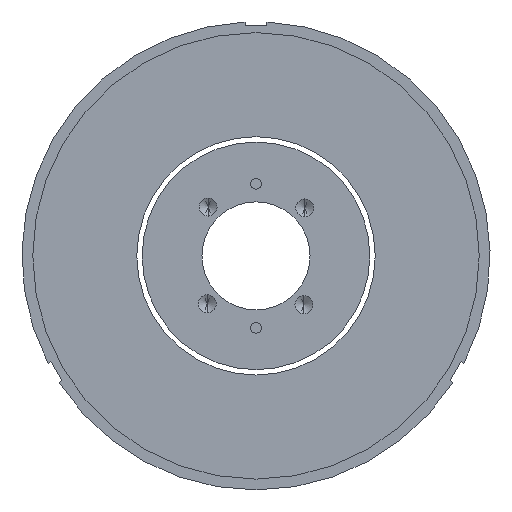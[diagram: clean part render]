
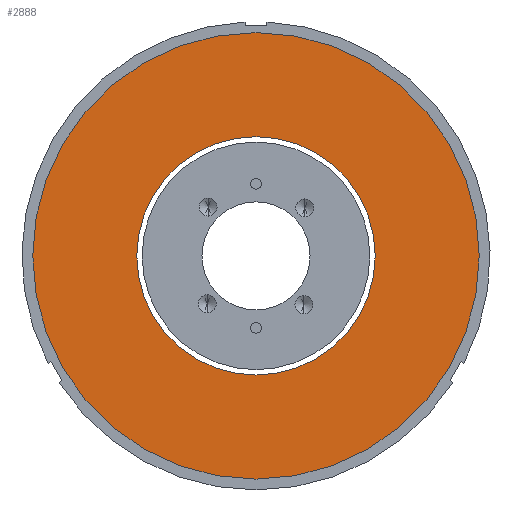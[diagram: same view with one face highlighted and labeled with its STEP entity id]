
A CAD part, front view. The second image highlights one B-rep face of the part: STEP entity #2888.
In plain terms, the highlighted planar face has unit normal (0, -1, 0).
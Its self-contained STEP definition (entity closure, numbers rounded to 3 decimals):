
#20 = CIRCLE ( 'NONE', #1018, 16.55 ) ;
#315 = CARTESIAN_POINT ( 'NONE',  ( 11.346, -2.902, 70.712 ) ) ;
#396 = EDGE_CURVE ( 'NONE', #3766, #637, #20, .T. ) ;
#425 = ORIENTED_EDGE ( 'NONE', *, *, #1084, .F. ) ;
#519 = CARTESIAN_POINT ( 'NONE',  ( 11.346, -2.902, 70.712 ) ) ;
#536 = DIRECTION ( 'NONE',  ( 0., 1., 0. ) ) ;
#637 = VERTEX_POINT ( 'NONE', #3361 ) ;
#792 = DIRECTION ( 'NONE',  ( 0., 0., 1. ) ) ;
#842 = ORIENTED_EDGE ( 'NONE', *, *, #3408, .F. ) ;
#1001 = EDGE_CURVE ( 'NONE', #637, #3766, #2670, .T. ) ;
#1018 = AXIS2_PLACEMENT_3D ( 'NONE', #2027, #536, #1147 ) ;
#1028 = EDGE_LOOP ( 'NONE', ( #425, #842 ) ) ;
#1084 = EDGE_CURVE ( 'NONE', #2508, #3482, #1514, .T. ) ;
#1088 = CARTESIAN_POINT ( 'NONE',  ( 11.346, -2.902, 70.712 ) ) ;
#1093 = CARTESIAN_POINT ( 'NONE',  ( 11.346, -2.902, 54.162 ) ) ;
#1147 = DIRECTION ( 'NONE',  ( 0., 0., 1. ) ) ;
#1175 = CIRCLE ( 'NONE', #3525, 31. ) ;
#1266 = EDGE_LOOP ( 'NONE', ( #2067, #1553 ) ) ;
#1371 = DIRECTION ( 'NONE',  ( 0., 1., 0. ) ) ;
#1396 = AXIS2_PLACEMENT_3D ( 'NONE', #519, #2829, #1458 ) ;
#1428 = DIRECTION ( 'NONE',  ( 0., 1., 0. ) ) ;
#1441 = CARTESIAN_POINT ( 'NONE',  ( 11.346, -2.902, 70.712 ) ) ;
#1458 = DIRECTION ( 'NONE',  ( 0., 0., 1. ) ) ;
#1514 = CIRCLE ( 'NONE', #1396, 31. ) ;
#1515 = CARTESIAN_POINT ( 'NONE',  ( 11.346, -2.902, 101.712 ) ) ;
#1553 = ORIENTED_EDGE ( 'NONE', *, *, #1001, .T. ) ;
#2027 = CARTESIAN_POINT ( 'NONE',  ( 11.346, -2.902, 70.712 ) ) ;
#2067 = ORIENTED_EDGE ( 'NONE', *, *, #396, .T. ) ;
#2070 = FACE_OUTER_BOUND ( 'NONE', #1028, .T. ) ;
#2132 = AXIS2_PLACEMENT_3D ( 'NONE', #1441, #1428, #3303 ) ;
#2143 = DIRECTION ( 'NONE',  ( 0., 0., 1. ) ) ;
#2508 = VERTEX_POINT ( 'NONE', #2654 ) ;
#2654 = CARTESIAN_POINT ( 'NONE',  ( 11.346, -2.902, 39.712 ) ) ;
#2670 = CIRCLE ( 'NONE', #2932, 16.55 ) ;
#2829 = DIRECTION ( 'NONE',  ( 0., 1., 0. ) ) ;
#2888 = ADVANCED_FACE ( 'NONE', ( #2070, #2969 ), #3237, .F. ) ;
#2932 = AXIS2_PLACEMENT_3D ( 'NONE', #1088, #1371, #792 ) ;
#2969 = FACE_BOUND ( 'NONE', #1266, .T. ) ;
#3237 = PLANE ( 'NONE',  #2132 ) ;
#3303 = DIRECTION ( 'NONE',  ( 0., 0., 1. ) ) ;
#3354 = DIRECTION ( 'NONE',  ( 0., 1., 0. ) ) ;
#3361 = CARTESIAN_POINT ( 'NONE',  ( 11.346, -2.902, 87.262 ) ) ;
#3408 = EDGE_CURVE ( 'NONE', #3482, #2508, #1175, .T. ) ;
#3482 = VERTEX_POINT ( 'NONE', #1515 ) ;
#3525 = AXIS2_PLACEMENT_3D ( 'NONE', #315, #3354, #2143 ) ;
#3766 = VERTEX_POINT ( 'NONE', #1093 ) ;
